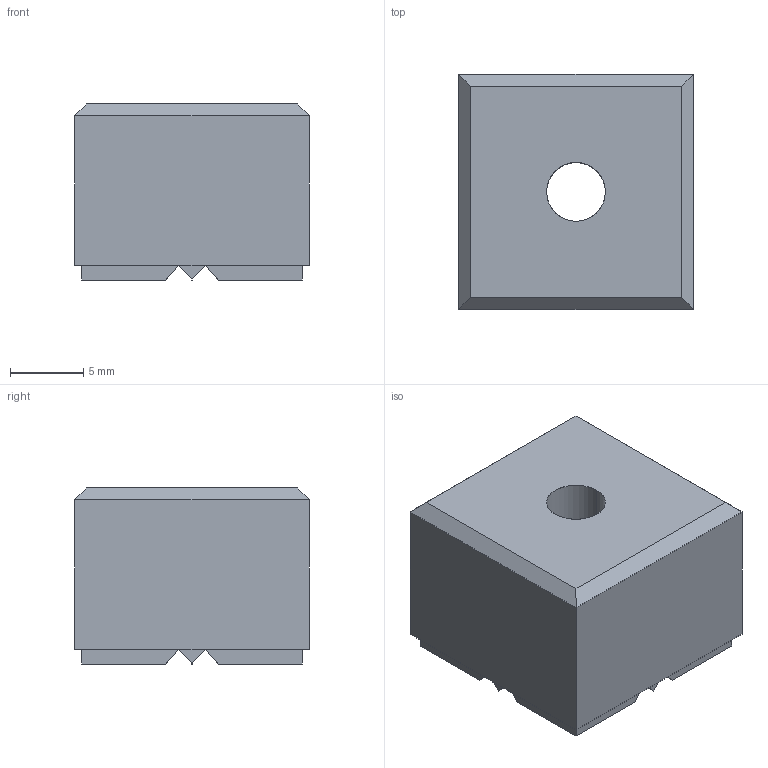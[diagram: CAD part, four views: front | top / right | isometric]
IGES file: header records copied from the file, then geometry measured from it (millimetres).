
Start section: SolidWorks IGES FILE using analytic representation for surfaces
Global section: file name: C:\WIX2\Positioning\3549\3549W008.igs; native system: SolidWorks 2003 by SolidWorks Corporation; preprocessor: Version 5.3; author: Joan; date: 030722.164432; units: millimetre
Bounding box: 16 x 16 x 12 mm (x, y, z)
Surface area: 1430.3 mm2 (no closed solid volume)
Topology: 0 solids, 0 shells, 47 faces, 338 edges, 338 vertices
Faces by surface type: bspline 43, revolution 4
